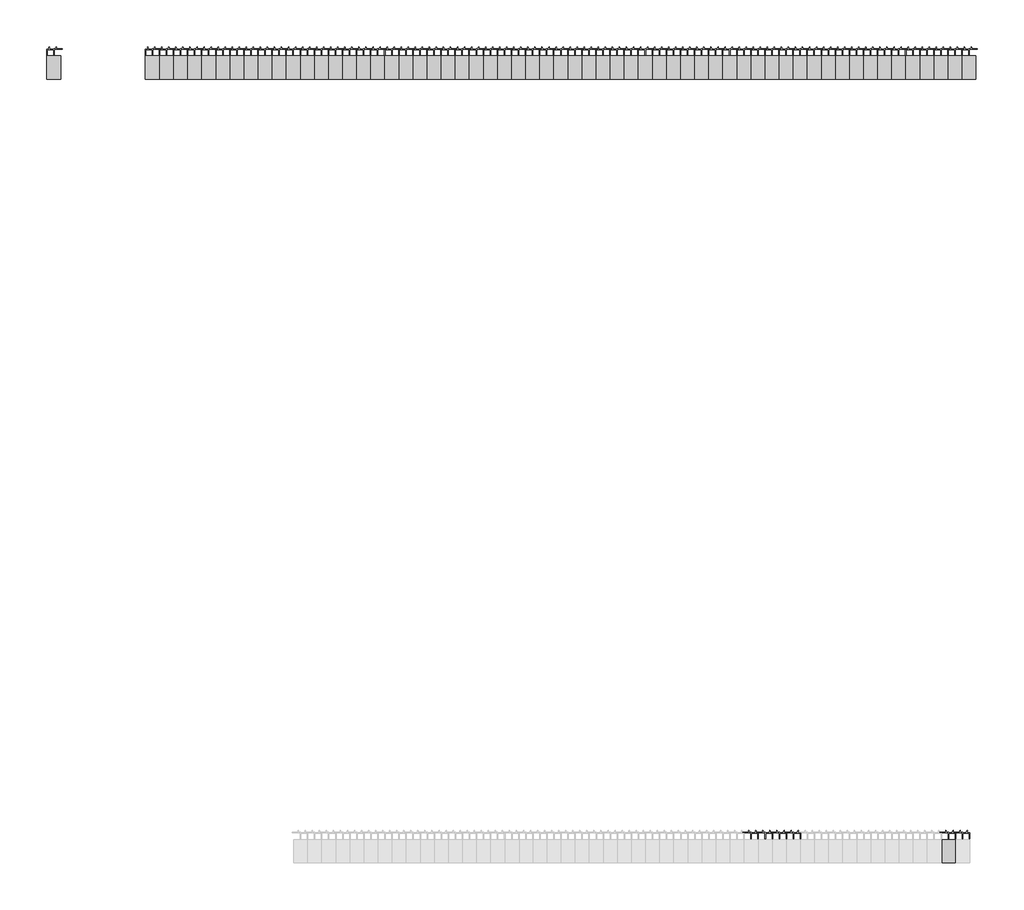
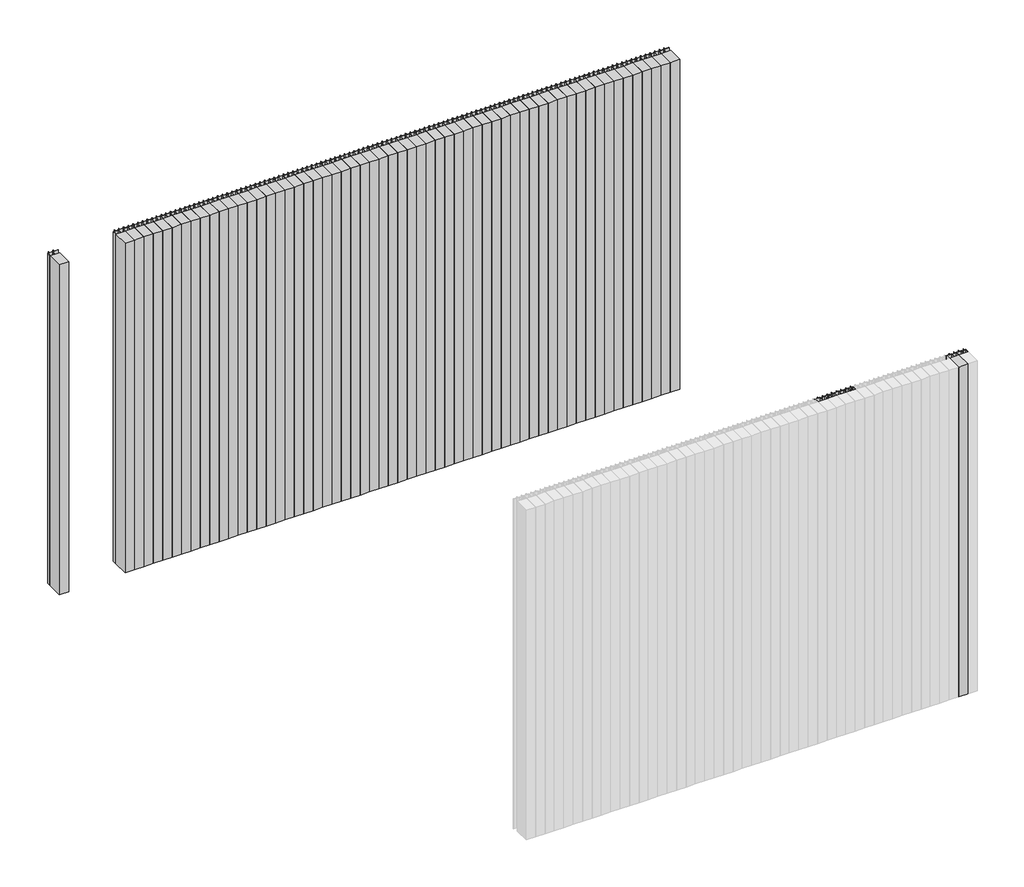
# One storey, part 3 of 3: 66 members, 61 plates.
"""IFC4 building model written with IfcOpenShell, lengths in millimetres."""

from ifc_helpers import new_model, si_unit, origin, place, context, project, spatial, transform, mapped, element, save
from components import rectangular_mullion_2d27342c, rectangular_mullion_54812856, rectangular_mullion_0795b381, rectangular_mullion_45ac8ef7, empty_system_panel_empty_ddf532ef, empty_system_panel_empty_d01f5993, empty_system_panel_empty_b4a5b46b

model = new_model("IFC4")

# Units and contexts
model_context = context("Model", 3, world=origin())
ifc_project = project(units=[si_unit("LENGTHUNIT", "METRE", prefix="MILLI")], contexts=[model_context])

# Site, building, storey
site = spatial("IfcSite", under=ifc_project)
building = spatial("IfcBuilding", under=site)
storey = spatial("IfcBuildingStorey", under=building, Name="REN - Top", Elevation=4000.0)

# Members
placement = place(None, origin())
rectangular_mullion_shape = rectangular_mullion_2d27342c(model_context)
element("IfcMember", 1, ObjectType="Rectangular Mullion : Renson_Linarte_LA-E25-01 Zone B", at=placement, inside=storey, context=model_context, shape_type="MappedRepresentation", body=[
    mapped(rectangular_mullion_shape, transform((402395.5749429, -18477.8406315, 0.0), x_axis=(1.0, 0.0, 0.0), y_axis=(0.0, -1.0, 0.0), z_axis=(0.0, 0.0, -1.0))),
])
element("IfcMember", 2, ObjectType="Rectangular Mullion : Renson_Linarte_LA-E25-01 Zone B", at=placement, inside=storey, context=model_context, shape_type="MappedRepresentation", body=[
    mapped(rectangular_mullion_shape, transform((402455.5749429, -18477.8406315, 0.0), x_axis=(1.0, 0.0, 0.0), y_axis=(0.0, -1.0, 0.0), z_axis=(0.0, 0.0, -1.0))),
])
element("IfcMember", 3, ObjectType="Rectangular Mullion : Renson_Linarte_LA-E25-01 Zone B", at=placement, inside=storey, context=model_context, shape_type="MappedRepresentation", body=[
    mapped(rectangular_mullion_shape, transform((402515.5749429, -18477.8406315, 0.0), x_axis=(1.0, 0.0, 0.0), y_axis=(0.0, -1.0, 0.0), z_axis=(0.0, 0.0, -1.0))),
])
element("IfcMember", 4, ObjectType="Rectangular Mullion : Renson_Linarte_LA-E25-01 Zone B", at=placement, inside=storey, context=model_context, shape_type="MappedRepresentation", body=[
    mapped(rectangular_mullion_shape, transform((402575.5749429, -18477.8406315, 0.0), x_axis=(1.0, 0.0, 0.0), y_axis=(0.0, -1.0, 0.0), z_axis=(0.0, 0.0, -1.0))),
])
element("IfcMember", 5, ObjectType="Rectangular Mullion : Renson_Linarte_LA-E25-01 Zone B", at=placement, inside=storey, context=model_context, shape_type="MappedRepresentation", body=[
    mapped(rectangular_mullion_shape, transform((402635.5749429, -18477.8406315, 0.0), x_axis=(1.0, 0.0, 0.0), y_axis=(0.0, -1.0, 0.0), z_axis=(0.0, 0.0, -1.0))),
])
element("IfcMember", 6, ObjectType="Rectangular Mullion : Renson_Linarte_LA-E25-01 Zone B", at=placement, inside=storey, context=model_context, shape_type="MappedRepresentation", body=[
    mapped(rectangular_mullion_shape, transform((402695.5749429, -18477.8406315, 0.0), x_axis=(1.0, 0.0, 0.0), y_axis=(0.0, -1.0, 0.0), z_axis=(0.0, 0.0, -1.0))),
])
element("IfcMember", 7, ObjectType="Rectangular Mullion : Renson_Linarte_LA-E25-01 Zone B", at=placement, inside=storey, context=model_context, shape_type="MappedRepresentation", body=[
    mapped(rectangular_mullion_shape, transform((402755.5749429, -18477.8406315, 0.0), x_axis=(1.0, 0.0, 0.0), y_axis=(0.0, -1.0, 0.0), z_axis=(0.0, 0.0, -1.0))),
])
element("IfcMember", 8, ObjectType="Rectangular Mullion : Renson_Linarte_LA-E25-01 Zone B", at=placement, inside=storey, context=model_context, shape_type="MappedRepresentation", body=[
    mapped(rectangular_mullion_shape, transform((402815.5749429, -18477.8406315, 0.0), x_axis=(1.0, 0.0, 0.0), y_axis=(0.0, -1.0, 0.0), z_axis=(0.0, 0.0, -1.0))),
])
element("IfcMember", 9, ObjectType="Rectangular Mullion : Renson_Linarte_LA-E25-01 Zone B", at=placement, inside=storey, context=model_context, shape_type="MappedRepresentation", body=[
    mapped(rectangular_mullion_shape, transform((402875.5749429, -18477.8406315, 0.0), x_axis=(1.0, 0.0, 0.0), y_axis=(0.0, -1.0, 0.0), z_axis=(0.0, 0.0, -1.0))),
])
element("IfcMember", 10, ObjectType="Rectangular Mullion : Renson_Linarte_LA-E25-01 Zone B", at=placement, inside=storey, context=model_context, shape_type="MappedRepresentation", body=[
    mapped(rectangular_mullion_shape, transform((402935.5749429, -18477.8406315, 0.0), x_axis=(1.0, 0.0, 0.0), y_axis=(0.0, -1.0, 0.0), z_axis=(0.0, 0.0, -1.0))),
])
element("IfcMember", 11, ObjectType="Rectangular Mullion : Renson_Linarte_LA-E25-01 Zone B", at=placement, inside=storey, context=model_context, shape_type="MappedRepresentation", body=[
    mapped(rectangular_mullion_shape, transform((402995.5749429, -18477.8406315, 0.0), x_axis=(1.0, 0.0, 0.0), y_axis=(0.0, -1.0, 0.0), z_axis=(0.0, 0.0, -1.0))),
])
element("IfcMember", 12, ObjectType="Rectangular Mullion : Renson_Linarte_LA-E25-01 Zone B", at=placement, inside=storey, context=model_context, shape_type="MappedRepresentation", body=[
    mapped(rectangular_mullion_shape, transform((403055.5749429, -18477.8406315, 0.0), x_axis=(1.0, 0.0, 0.0), y_axis=(0.0, -1.0, 0.0), z_axis=(0.0, 0.0, -1.0))),
])
element("IfcMember", 13, ObjectType="Rectangular Mullion : Renson_Linarte_LA-E25-01 Zone B", at=placement, inside=storey, context=model_context, shape_type="MappedRepresentation", body=[
    mapped(rectangular_mullion_shape, transform((403115.5749429, -18477.8406315, 0.0), x_axis=(1.0, 0.0, 0.0), y_axis=(0.0, -1.0, 0.0), z_axis=(0.0, 0.0, -1.0))),
])
element("IfcMember", 14, ObjectType="Rectangular Mullion : Renson_Linarte_LA-E25-01 Zone B", at=placement, inside=storey, context=model_context, shape_type="MappedRepresentation", body=[
    mapped(rectangular_mullion_shape, transform((403175.5749429, -18477.8406315, 0.0), x_axis=(1.0, 0.0, 0.0), y_axis=(0.0, -1.0, 0.0), z_axis=(0.0, 0.0, -1.0))),
])
element("IfcMember", 15, ObjectType="Rectangular Mullion : Renson_Linarte_LA-E25-01 Zone B", at=placement, inside=storey, context=model_context, shape_type="MappedRepresentation", body=[
    mapped(rectangular_mullion_shape, transform((403235.5749429, -18477.8406315, 0.0), x_axis=(1.0, 0.0, 0.0), y_axis=(0.0, -1.0, 0.0), z_axis=(0.0, 0.0, -1.0))),
])
element("IfcMember", 16, ObjectType="Rectangular Mullion : Renson_Linarte_LA-E25-01 Zone B", at=placement, inside=storey, context=model_context, shape_type="MappedRepresentation", body=[
    mapped(rectangular_mullion_shape, transform((403295.5749429, -18477.8406315, 0.0), x_axis=(1.0, 0.0, 0.0), y_axis=(0.0, -1.0, 0.0), z_axis=(0.0, 0.0, -1.0))),
])
element("IfcMember", 17, ObjectType="Rectangular Mullion : Renson_Linarte_LA-E25-01 Zone B", at=placement, inside=storey, context=model_context, shape_type="MappedRepresentation", body=[
    mapped(rectangular_mullion_shape, transform((403355.5749429, -18477.8406315, 0.0), x_axis=(1.0, 0.0, 0.0), y_axis=(0.0, -1.0, 0.0), z_axis=(0.0, 0.0, -1.0))),
])
element("IfcMember", 18, ObjectType="Rectangular Mullion : Renson_Linarte_LA-E25-01 Zone B", at=placement, inside=storey, context=model_context, shape_type="MappedRepresentation", body=[
    mapped(rectangular_mullion_shape, transform((403415.5749429, -18477.8406315, 0.0), x_axis=(1.0, 0.0, 0.0), y_axis=(0.0, -1.0, 0.0), z_axis=(0.0, 0.0, -1.0))),
])
element("IfcMember", 19, ObjectType="Rectangular Mullion : Renson_Linarte_LA-E25-01 Zone B", at=placement, inside=storey, context=model_context, shape_type="MappedRepresentation", body=[
    mapped(rectangular_mullion_shape, transform((403475.5749429, -18477.8406315, 0.0), x_axis=(1.0, 0.0, 0.0), y_axis=(0.0, -1.0, 0.0), z_axis=(0.0, 0.0, -1.0))),
])
element("IfcMember", 20, ObjectType="Rectangular Mullion : Renson_Linarte_LA-E25-01 Zone B", at=placement, inside=storey, context=model_context, shape_type="MappedRepresentation", body=[
    mapped(rectangular_mullion_shape, transform((403535.5749429, -18477.8406315, 0.0), x_axis=(1.0, 0.0, 0.0), y_axis=(0.0, -1.0, 0.0), z_axis=(0.0, 0.0, -1.0))),
])
element("IfcMember", 21, ObjectType="Rectangular Mullion : Renson_Linarte_LA-E25-01 Zone B", at=placement, inside=storey, context=model_context, shape_type="MappedRepresentation", body=[
    mapped(rectangular_mullion_shape, transform((403595.5749429, -18477.8406315, 0.0), x_axis=(1.0, 0.0, 0.0), y_axis=(0.0, -1.0, 0.0), z_axis=(0.0, 0.0, -1.0))),
])
element("IfcMember", 22, ObjectType="Rectangular Mullion : Renson_Linarte_LA-E25-01 Zone B", at=placement, inside=storey, context=model_context, shape_type="MappedRepresentation", body=[
    mapped(rectangular_mullion_shape, transform((403655.5749429, -18477.8406315, 0.0), x_axis=(1.0, 0.0, 0.0), y_axis=(0.0, -1.0, 0.0), z_axis=(0.0, 0.0, -1.0))),
])
element("IfcMember", 23, ObjectType="Rectangular Mullion : Renson_Linarte_LA-E25-01 Zone B", at=placement, inside=storey, context=model_context, shape_type="MappedRepresentation", body=[
    mapped(rectangular_mullion_shape, transform((403715.5749429, -18477.8406315, 0.0), x_axis=(1.0, 0.0, 0.0), y_axis=(0.0, -1.0, 0.0), z_axis=(0.0, 0.0, -1.0))),
])
element("IfcMember", 24, ObjectType="Rectangular Mullion : Renson_Linarte_LA-E25-01 Zone B", at=placement, inside=storey, context=model_context, shape_type="MappedRepresentation", body=[
    mapped(rectangular_mullion_shape, transform((403775.5749429, -18477.8406315, 0.0), x_axis=(1.0, 0.0, 0.0), y_axis=(0.0, -1.0, 0.0), z_axis=(0.0, 0.0, -1.0))),
])
element("IfcMember", 25, ObjectType="Rectangular Mullion : Renson_Linarte_LA-E25-01 Zone B", at=placement, inside=storey, context=model_context, shape_type="MappedRepresentation", body=[
    mapped(rectangular_mullion_shape, transform((403835.5749429, -18477.8406315, 0.0), x_axis=(1.0, 0.0, 0.0), y_axis=(0.0, -1.0, 0.0), z_axis=(0.0, 0.0, -1.0))),
])
element("IfcMember", 26, ObjectType="Rectangular Mullion : Renson_Linarte_LA-E25-01 Zone B", at=placement, inside=storey, context=model_context, shape_type="MappedRepresentation", body=[
    mapped(rectangular_mullion_shape, transform((403895.5749429, -18477.8406315, 0.0), x_axis=(1.0, 0.0, 0.0), y_axis=(0.0, -1.0, 0.0), z_axis=(0.0, 0.0, -1.0))),
])
element("IfcMember", 27, ObjectType="Rectangular Mullion : Renson_Linarte_LA-E25-01 Zone B", at=placement, inside=storey, context=model_context, shape_type="MappedRepresentation", body=[
    mapped(rectangular_mullion_shape, transform((403955.5749429, -18477.8406315, 0.0), x_axis=(1.0, 0.0, 0.0), y_axis=(0.0, -1.0, 0.0), z_axis=(0.0, 0.0, -1.0))),
])
element("IfcMember", 28, ObjectType="Rectangular Mullion : Renson_Linarte_LA-E25-01 Zone B", at=placement, inside=storey, context=model_context, shape_type="MappedRepresentation", body=[
    mapped(rectangular_mullion_shape, transform((404015.5749429, -18477.8406315, 0.0), x_axis=(1.0, 0.0, 0.0), y_axis=(0.0, -1.0, 0.0), z_axis=(0.0, 0.0, -1.0))),
])
element("IfcMember", 29, ObjectType="Rectangular Mullion : Renson_Linarte_LA-E25-01 Zone B", at=placement, inside=storey, context=model_context, shape_type="MappedRepresentation", body=[
    mapped(rectangular_mullion_shape, transform((404075.5749429, -18477.8406315, 0.0), x_axis=(1.0, 0.0, 0.0), y_axis=(0.0, -1.0, 0.0), z_axis=(0.0, 0.0, -1.0))),
])
element("IfcMember", 30, ObjectType="Rectangular Mullion : Renson_Linarte_LA-E25-01 Zone B", at=placement, inside=storey, context=model_context, shape_type="MappedRepresentation", body=[
    mapped(rectangular_mullion_shape, transform((404135.5749429, -18477.8406315, 0.0), x_axis=(1.0, 0.0, 0.0), y_axis=(0.0, -1.0, 0.0), z_axis=(0.0, 0.0, -1.0))),
])
element("IfcMember", 31, ObjectType="Rectangular Mullion : Renson_Linarte_LA-E25-01 Zone B", at=placement, inside=storey, context=model_context, shape_type="MappedRepresentation", body=[
    mapped(rectangular_mullion_shape, transform((404195.5749429, -18477.8406315, 0.0), x_axis=(1.0, 0.0, 0.0), y_axis=(0.0, -1.0, 0.0), z_axis=(0.0, 0.0, -1.0))),
])
element("IfcMember", 32, ObjectType="Rectangular Mullion : Renson_Linarte_LA-E25-01 Zone B", at=placement, inside=storey, context=model_context, shape_type="MappedRepresentation", body=[
    mapped(rectangular_mullion_shape, transform((404255.5749429, -18477.8406315, 0.0), x_axis=(1.0, 0.0, 0.0), y_axis=(0.0, -1.0, 0.0), z_axis=(0.0, 0.0, -1.0))),
])
element("IfcMember", 33, ObjectType="Rectangular Mullion : Renson_Linarte_LA-E25-01 Zone B", at=placement, inside=storey, context=model_context, shape_type="MappedRepresentation", body=[
    mapped(rectangular_mullion_shape, transform((404315.5749429, -18477.8406315, 0.0), x_axis=(1.0, 0.0, 0.0), y_axis=(0.0, -1.0, 0.0), z_axis=(0.0, 0.0, -1.0))),
])
element("IfcMember", 34, ObjectType="Rectangular Mullion : Renson_Linarte_LA-E25-01 Zone B", at=placement, inside=storey, context=model_context, shape_type="MappedRepresentation", body=[
    mapped(rectangular_mullion_shape, transform((404375.5749429, -18477.8406315, 0.0), x_axis=(1.0, 0.0, 0.0), y_axis=(0.0, -1.0, 0.0), z_axis=(0.0, 0.0, -1.0))),
])
element("IfcMember", 35, ObjectType="Rectangular Mullion : Renson_Linarte_LA-E25-01 Zone B", at=placement, inside=storey, context=model_context, shape_type="MappedRepresentation", body=[
    mapped(rectangular_mullion_shape, transform((404435.5749429, -18477.8406315, 0.0), x_axis=(1.0, 0.0, 0.0), y_axis=(0.0, -1.0, 0.0), z_axis=(0.0, 0.0, -1.0))),
])
element("IfcMember", 36, ObjectType="Rectangular Mullion : Renson_Linarte_LA-E25-01 Zone B", at=placement, inside=storey, context=model_context, shape_type="MappedRepresentation", body=[
    mapped(rectangular_mullion_shape, transform((404495.5749429, -18477.8406315, 0.0), x_axis=(1.0, 0.0, 0.0), y_axis=(0.0, -1.0, 0.0), z_axis=(0.0, 0.0, -1.0))),
])
element("IfcMember", 37, ObjectType="Rectangular Mullion : Renson_Linarte_LA-E25-01 Zone B", at=placement, inside=storey, context=model_context, shape_type="MappedRepresentation", body=[
    mapped(rectangular_mullion_shape, transform((404555.5749429, -18477.8406315, 0.0), x_axis=(1.0, 0.0, 0.0), y_axis=(0.0, -1.0, 0.0), z_axis=(0.0, 0.0, -1.0))),
])
element("IfcMember", 38, ObjectType="Rectangular Mullion : Renson_Linarte_LA-E25-01 Zone B", at=placement, inside=storey, context=model_context, shape_type="MappedRepresentation", body=[
    mapped(rectangular_mullion_shape, transform((404615.5749429, -18477.8406315, 0.0), x_axis=(1.0, 0.0, 0.0), y_axis=(0.0, -1.0, 0.0), z_axis=(0.0, 0.0, -1.0))),
])
element("IfcMember", 39, ObjectType="Rectangular Mullion : Renson_Linarte_LA-E25-01 Zone B", at=placement, inside=storey, context=model_context, shape_type="MappedRepresentation", body=[
    mapped(rectangular_mullion_shape, transform((404675.5749429, -18477.8406315, 0.0), x_axis=(1.0, 0.0, 0.0), y_axis=(0.0, -1.0, 0.0), z_axis=(0.0, 0.0, -1.0))),
])
element("IfcMember", 40, ObjectType="Rectangular Mullion : Renson_Linarte_LA-E25-01 Zone B", at=placement, inside=storey, context=model_context, shape_type="MappedRepresentation", body=[
    mapped(rectangular_mullion_shape, transform((404735.5749429, -18477.8406315, 0.0), x_axis=(1.0, 0.0, 0.0), y_axis=(0.0, -1.0, 0.0), z_axis=(0.0, 0.0, -1.0))),
])
element("IfcMember", 41, ObjectType="Rectangular Mullion : Renson_Linarte_LA-E25-01 Zone B", at=placement, inside=storey, context=model_context, shape_type="MappedRepresentation", body=[
    mapped(rectangular_mullion_shape, transform((404795.5749429, -18477.8406315, 0.0), x_axis=(1.0, 0.0, 0.0), y_axis=(0.0, -1.0, 0.0), z_axis=(0.0, 0.0, -1.0))),
])
element("IfcMember", 42, ObjectType="Rectangular Mullion : Renson_Linarte_LA-E25-01 Zone B", at=placement, inside=storey, context=model_context, shape_type="MappedRepresentation", body=[
    mapped(rectangular_mullion_shape, transform((404855.5749429, -18477.8406315, 0.0), x_axis=(1.0, 0.0, 0.0), y_axis=(0.0, -1.0, 0.0), z_axis=(0.0, 0.0, -1.0))),
])
element("IfcMember", 43, ObjectType="Rectangular Mullion : Renson_Linarte_LA-E25-01 Zone B", at=placement, inside=storey, context=model_context, shape_type="MappedRepresentation", body=[
    mapped(rectangular_mullion_shape, transform((404915.5749429, -18477.8406315, 0.0), x_axis=(1.0, 0.0, 0.0), y_axis=(0.0, -1.0, 0.0), z_axis=(0.0, 0.0, -1.0))),
])
element("IfcMember", 44, ObjectType="Rectangular Mullion : Renson_Linarte_LA-E25-01 Zone B", at=placement, inside=storey, context=model_context, shape_type="MappedRepresentation", body=[
    mapped(rectangular_mullion_shape, transform((404975.5749429, -18477.8406315, 0.0), x_axis=(1.0, 0.0, 0.0), y_axis=(0.0, -1.0, 0.0), z_axis=(0.0, 0.0, -1.0))),
])
element("IfcMember", 45, ObjectType="Rectangular Mullion : Renson_Linarte_LA-E25-01 Zone B", at=placement, inside=storey, context=model_context, shape_type="MappedRepresentation", body=[
    mapped(rectangular_mullion_shape, transform((405035.5749429, -18477.8406315, 0.0), x_axis=(1.0, 0.0, 0.0), y_axis=(0.0, -1.0, 0.0), z_axis=(0.0, 0.0, -1.0))),
])
element("IfcMember", 46, ObjectType="Rectangular Mullion : Renson_Linarte_LA-E25-01 Zone B", at=placement, inside=storey, context=model_context, shape_type="MappedRepresentation", body=[
    mapped(rectangular_mullion_shape, transform((405095.5749429, -18477.8406315, 0.0), x_axis=(1.0, 0.0, 0.0), y_axis=(0.0, -1.0, 0.0), z_axis=(0.0, 0.0, -1.0))),
])
element("IfcMember", 47, ObjectType="Rectangular Mullion : Renson_Linarte_LA-E25-01 Zone B", at=placement, inside=storey, context=model_context, shape_type="MappedRepresentation", body=[
    mapped(rectangular_mullion_shape, transform((405155.5749429, -18477.8406315, 0.0), x_axis=(1.0, 0.0, 0.0), y_axis=(0.0, -1.0, 0.0), z_axis=(0.0, 0.0, -1.0))),
])
element("IfcMember", 48, ObjectType="Rectangular Mullion : Renson_Linarte_LA-E25-01 Zone B", at=placement, inside=storey, context=model_context, shape_type="MappedRepresentation", body=[
    mapped(rectangular_mullion_shape, transform((405215.5749429, -18477.8406315, 0.0), x_axis=(1.0, 0.0, 0.0), y_axis=(0.0, -1.0, 0.0), z_axis=(0.0, 0.0, -1.0))),
])
element("IfcMember", 49, ObjectType="Rectangular Mullion : Renson_Linarte_LA-E25-01 Zone B", at=placement, inside=storey, context=model_context, shape_type="MappedRepresentation", body=[
    mapped(rectangular_mullion_shape, transform((405275.5749429, -18477.8406315, 0.0), x_axis=(1.0, 0.0, 0.0), y_axis=(0.0, -1.0, 0.0), z_axis=(0.0, 0.0, -1.0))),
])
element("IfcMember", 50, ObjectType="Rectangular Mullion : Renson_Linarte_LA-E25-01 Zone B", at=placement, inside=storey, context=model_context, shape_type="MappedRepresentation", body=[
    mapped(rectangular_mullion_shape, transform((405335.5749429, -18477.8406315, 0.0), x_axis=(1.0, 0.0, 0.0), y_axis=(0.0, -1.0, 0.0), z_axis=(0.0, 0.0, -1.0))),
])
element("IfcMember", 51, ObjectType="Rectangular Mullion : Renson_Linarte_LA-E25-01 Zone B", at=placement, inside=storey, context=model_context, shape_type="MappedRepresentation", body=[
    mapped(rectangular_mullion_shape, transform((405395.5749429, -18477.8406315, 0.0), x_axis=(1.0, 0.0, 0.0), y_axis=(0.0, -1.0, 0.0), z_axis=(0.0, 0.0, -1.0))),
])
element("IfcMember", 52, ObjectType="Rectangular Mullion : Renson_Linarte_LA-E25-01 Zone B", at=placement, inside=storey, context=model_context, shape_type="MappedRepresentation", body=[
    mapped(rectangular_mullion_shape, transform((405455.5749429, -18477.8406315, 0.0), x_axis=(1.0, 0.0, 0.0), y_axis=(0.0, -1.0, 0.0), z_axis=(0.0, 0.0, -1.0))),
])
element("IfcMember", 53, ObjectType="Rectangular Mullion : Renson_Linarte_LA-E25-01 Zone B", at=placement, inside=storey, context=model_context, shape_type="MappedRepresentation", body=[
    mapped(rectangular_mullion_shape, transform((405515.5749429, -18477.8406315, 0.0), x_axis=(1.0, 0.0, 0.0), y_axis=(0.0, -1.0, 0.0), z_axis=(0.0, 0.0, -1.0))),
])
element("IfcMember", 54, ObjectType="Rectangular Mullion : Renson_Linarte_LA-E25-01 Zone B", at=placement, inside=storey, context=model_context, shape_type="MappedRepresentation", body=[
    mapped(rectangular_mullion_shape, transform((405575.5749429, -18477.8406315, 0.0), x_axis=(1.0, 0.0, 0.0), y_axis=(0.0, -1.0, 0.0), z_axis=(0.0, 0.0, -1.0))),
])
element("IfcMember", 55, ObjectType="Rectangular Mullion : Renson_Linarte_LA-E25-01 Zone B", at=placement, inside=storey, context=model_context, shape_type="MappedRepresentation", body=[
    mapped(rectangular_mullion_shape, transform((405635.5749429, -18477.8406315, 0.0), x_axis=(1.0, 0.0, 0.0), y_axis=(0.0, -1.0, 0.0), z_axis=(0.0, 0.0, -1.0))),
])
element("IfcMember", 56, ObjectType="Rectangular Mullion : Renson_Linarte_LA-E25-01 Zone B", at=placement, inside=storey, context=model_context, shape_type="MappedRepresentation", body=[
    mapped(rectangular_mullion_shape, transform((405695.5749429, -18477.8406315, 0.0), x_axis=(1.0, 0.0, 0.0), y_axis=(0.0, -1.0, 0.0), z_axis=(0.0, 0.0, -1.0))),
])
element("IfcMember", 57, ObjectType="Rectangular Mullion : Renson_Linarte_LA-E25-01 Zone B", at=placement, inside=storey, context=model_context, shape_type="MappedRepresentation", body=[
    mapped(rectangular_mullion_shape, transform((405755.5749429, -18477.8406315, 0.0), x_axis=(1.0, 0.0, 0.0), y_axis=(0.0, -1.0, 0.0), z_axis=(0.0, 0.0, -1.0))),
])
element("IfcMember", 58, ObjectType="Rectangular Mullion : Renson_Linarte_LA-E25-01 Zone B", at=placement, inside=storey, context=model_context, shape_type="MappedRepresentation", body=[
    mapped(rectangular_mullion_shape, transform((405815.5749429, -18477.8406315, 0.0), x_axis=(1.0, 0.0, 0.0), y_axis=(0.0, -1.0, 0.0), z_axis=(0.0, 0.0, -1.0))),
])
element("IfcMember", 59, ObjectType="Rectangular Mullion : Renson_Linarte_LA-E25-01 Zone B", at=placement, inside=storey, context=model_context, shape_type="MappedRepresentation", body=[
    mapped(rectangular_mullion_shape, transform((405875.5749429, -18477.8406315, 0.0), x_axis=(1.0, 0.0, 0.0), y_axis=(0.0, -1.0, 0.0), z_axis=(0.0, 0.0, -1.0))),
])
rectangular_mullion_2_shape = rectangular_mullion_54812856(model_context)
element("IfcMember", 60, ObjectType="Rectangular Mullion : Renson_Linarte_LA-E25-01 Zone B", at=placement, inside=storey, context=model_context, shape_type="MappedRepresentation", body=[
    mapped(rectangular_mullion_2_shape, transform((401975.5749426, -18477.8406315, 2225.0), x_axis=(-1.0, 0.0, 0.0), y_axis=(0.0, -1.0, 0.0), z_axis=(0.0, 0.0, 1.0))),
])
rectangular_mullion_3_shape = rectangular_mullion_0795b381(model_context)
element("IfcMember", 61, ObjectType="Rectangular Mullion : Renson_Linarte_LA-E25-01 Zone B", at=placement, inside=storey, context=model_context, shape_type="MappedRepresentation", body=[
    mapped(rectangular_mullion_3_shape, transform((405189.0900204, -21816.7045876, 0.0), x_axis=(-1.0, 0.0, 0.0), y_axis=(0.0, 1.0, 0.0), z_axis=(0.0, 0.0, -1.0))),
])
element("IfcMember", 62, ObjectType="Rectangular Mullion : Renson_Linarte_LA-E25-01 Zone B", at=placement, inside=storey, context=model_context, shape_type="MappedRepresentation", body=[
    mapped(rectangular_mullion_3_shape, transform((405129.0900204, -21816.7045876, 0.0), x_axis=(-1.0, 0.0, 0.0), y_axis=(0.0, 1.0, 0.0), z_axis=(0.0, 0.0, -1.0))),
])
element("IfcMember", 63, ObjectType="Rectangular Mullion : Renson_Linarte_LA-E25-01 Zone B", at=placement, inside=storey, context=model_context, shape_type="MappedRepresentation", body=[
    mapped(rectangular_mullion_3_shape, transform((405069.0900204, -21816.7045876, 0.0), x_axis=(-1.0, 0.0, 0.0), y_axis=(0.0, 1.0, 0.0), z_axis=(0.0, 0.0, -1.0))),
])
element("IfcMember", 64, ObjectType="Rectangular Mullion : Renson_Linarte_LA-E25-01 Zone B", at=placement, inside=storey, context=model_context, shape_type="MappedRepresentation", body=[
    mapped(rectangular_mullion_3_shape, transform((405009.0900204, -21816.7045876, 0.0), x_axis=(-1.0, 0.0, 0.0), y_axis=(0.0, 1.0, 0.0), z_axis=(0.0, 0.0, -1.0))),
])
element("IfcMember", 65, ObjectType="Rectangular Mullion : Renson_Linarte_LA-E25-01 Zone B", at=placement, inside=storey, context=model_context, shape_type="MappedRepresentation", body=[
    mapped(rectangular_mullion_3_shape, transform((405849.0900204, -21816.7045876, 0.0), x_axis=(-1.0, 0.0, 0.0), y_axis=(0.0, 1.0, 0.0), z_axis=(0.0, 0.0, -1.0))),
])
rectangular_mullion_4_shape = rectangular_mullion_45ac8ef7(model_context)
element("IfcMember", 66, ObjectType="Rectangular Mullion : Renson_Linarte_LA-E25-01 Zone B", at=placement, inside=storey, context=model_context, shape_type="MappedRepresentation", body=[
    mapped(rectangular_mullion_4_shape, transform((405909.0900207, -21816.7045876, 2225.0), x_axis=(1.0, 0.0, 0.0), y_axis=(0.0, 1.0, 0.0), z_axis=(0.0, 0.0, 1.0))),
])

# Plates
empty_system_panel_empty_shape = empty_system_panel_empty_ddf532ef(model_context)
element("IfcPlate", 67, ObjectType="Empty System Panel : Empty", at=placement, inside=storey, context=model_context, shape_type="MappedRepresentation", body=[
    mapped(empty_system_panel_empty_shape, transform((402425.5749429, -18477.8406315, 0.0), x_axis=(1.0, 0.0, 0.0), y_axis=(0.0, 1.0, 0.0), z_axis=(0.0, 0.0, 1.0))),
])
element("IfcPlate", 68, ObjectType="Empty System Panel : Empty", at=placement, inside=storey, context=model_context, shape_type="MappedRepresentation", body=[
    mapped(empty_system_panel_empty_shape, transform((402485.5749429, -18477.8406315, 0.0), x_axis=(1.0, 0.0, 0.0), y_axis=(0.0, 1.0, 0.0), z_axis=(0.0, 0.0, 1.0))),
])
element("IfcPlate", 69, ObjectType="Empty System Panel : Empty", at=placement, inside=storey, context=model_context, shape_type="MappedRepresentation", body=[
    mapped(empty_system_panel_empty_shape, transform((402545.5749429, -18477.8406315, 0.0), x_axis=(1.0, 0.0, 0.0), y_axis=(0.0, 1.0, 0.0), z_axis=(0.0, 0.0, 1.0))),
])
element("IfcPlate", 70, ObjectType="Empty System Panel : Empty", at=placement, inside=storey, context=model_context, shape_type="MappedRepresentation", body=[
    mapped(empty_system_panel_empty_shape, transform((402605.5749429, -18477.8406315, 0.0), x_axis=(1.0, 0.0, 0.0), y_axis=(0.0, 1.0, 0.0), z_axis=(0.0, 0.0, 1.0))),
])
element("IfcPlate", 71, ObjectType="Empty System Panel : Empty", at=placement, inside=storey, context=model_context, shape_type="MappedRepresentation", body=[
    mapped(empty_system_panel_empty_shape, transform((402665.5749429, -18477.8406315, 0.0), x_axis=(1.0, 0.0, 0.0), y_axis=(0.0, 1.0, 0.0), z_axis=(0.0, 0.0, 1.0))),
])
element("IfcPlate", 72, ObjectType="Empty System Panel : Empty", at=placement, inside=storey, context=model_context, shape_type="MappedRepresentation", body=[
    mapped(empty_system_panel_empty_shape, transform((402725.5749429, -18477.8406315, 0.0), x_axis=(1.0, 0.0, 0.0), y_axis=(0.0, 1.0, 0.0), z_axis=(0.0, 0.0, 1.0))),
])
element("IfcPlate", 73, ObjectType="Empty System Panel : Empty", at=placement, inside=storey, context=model_context, shape_type="MappedRepresentation", body=[
    mapped(empty_system_panel_empty_shape, transform((402785.5749429, -18477.8406315, 0.0), x_axis=(1.0, 0.0, 0.0), y_axis=(0.0, 1.0, 0.0), z_axis=(0.0, 0.0, 1.0))),
])
element("IfcPlate", 74, ObjectType="Empty System Panel : Empty", at=placement, inside=storey, context=model_context, shape_type="MappedRepresentation", body=[
    mapped(empty_system_panel_empty_shape, transform((402845.5749429, -18477.8406315, 0.0), x_axis=(1.0, 0.0, 0.0), y_axis=(0.0, 1.0, 0.0), z_axis=(0.0, 0.0, 1.0))),
])
element("IfcPlate", 75, ObjectType="Empty System Panel : Empty", at=placement, inside=storey, context=model_context, shape_type="MappedRepresentation", body=[
    mapped(empty_system_panel_empty_shape, transform((402905.5749429, -18477.8406315, 0.0), x_axis=(1.0, 0.0, 0.0), y_axis=(0.0, 1.0, 0.0), z_axis=(0.0, 0.0, 1.0))),
])
element("IfcPlate", 76, ObjectType="Empty System Panel : Empty", at=placement, inside=storey, context=model_context, shape_type="MappedRepresentation", body=[
    mapped(empty_system_panel_empty_shape, transform((402965.5749429, -18477.8406315, 0.0), x_axis=(1.0, 0.0, 0.0), y_axis=(0.0, 1.0, 0.0), z_axis=(0.0, 0.0, 1.0))),
])
element("IfcPlate", 77, ObjectType="Empty System Panel : Empty", at=placement, inside=storey, context=model_context, shape_type="MappedRepresentation", body=[
    mapped(empty_system_panel_empty_shape, transform((403025.5749429, -18477.8406315, 0.0), x_axis=(1.0, 0.0, 0.0), y_axis=(0.0, 1.0, 0.0), z_axis=(0.0, 0.0, 1.0))),
])
element("IfcPlate", 78, ObjectType="Empty System Panel : Empty", at=placement, inside=storey, context=model_context, shape_type="MappedRepresentation", body=[
    mapped(empty_system_panel_empty_shape, transform((403085.5749429, -18477.8406315, 0.0), x_axis=(1.0, 0.0, 0.0), y_axis=(0.0, 1.0, 0.0), z_axis=(0.0, 0.0, 1.0))),
])
element("IfcPlate", 79, ObjectType="Empty System Panel : Empty", at=placement, inside=storey, context=model_context, shape_type="MappedRepresentation", body=[
    mapped(empty_system_panel_empty_shape, transform((403145.5749429, -18477.8406315, 0.0), x_axis=(1.0, 0.0, 0.0), y_axis=(0.0, 1.0, 0.0), z_axis=(0.0, 0.0, 1.0))),
])
element("IfcPlate", 80, ObjectType="Empty System Panel : Empty", at=placement, inside=storey, context=model_context, shape_type="MappedRepresentation", body=[
    mapped(empty_system_panel_empty_shape, transform((403205.5749429, -18477.8406315, 0.0), x_axis=(1.0, 0.0, 0.0), y_axis=(0.0, 1.0, 0.0), z_axis=(0.0, 0.0, 1.0))),
])
element("IfcPlate", 81, ObjectType="Empty System Panel : Empty", at=placement, inside=storey, context=model_context, shape_type="MappedRepresentation", body=[
    mapped(empty_system_panel_empty_shape, transform((403265.5749429, -18477.8406315, 0.0), x_axis=(1.0, 0.0, 0.0), y_axis=(0.0, 1.0, 0.0), z_axis=(0.0, 0.0, 1.0))),
])
element("IfcPlate", 82, ObjectType="Empty System Panel : Empty", at=placement, inside=storey, context=model_context, shape_type="MappedRepresentation", body=[
    mapped(empty_system_panel_empty_shape, transform((403325.5749429, -18477.8406315, 0.0), x_axis=(1.0, 0.0, 0.0), y_axis=(0.0, 1.0, 0.0), z_axis=(0.0, 0.0, 1.0))),
])
element("IfcPlate", 83, ObjectType="Empty System Panel : Empty", at=placement, inside=storey, context=model_context, shape_type="MappedRepresentation", body=[
    mapped(empty_system_panel_empty_shape, transform((403385.5749429, -18477.8406315, 0.0), x_axis=(1.0, 0.0, 0.0), y_axis=(0.0, 1.0, 0.0), z_axis=(0.0, 0.0, 1.0))),
])
element("IfcPlate", 84, ObjectType="Empty System Panel : Empty", at=placement, inside=storey, context=model_context, shape_type="MappedRepresentation", body=[
    mapped(empty_system_panel_empty_shape, transform((403445.5749429, -18477.8406315, 0.0), x_axis=(1.0, 0.0, 0.0), y_axis=(0.0, 1.0, 0.0), z_axis=(0.0, 0.0, 1.0))),
])
element("IfcPlate", 85, ObjectType="Empty System Panel : Empty", at=placement, inside=storey, context=model_context, shape_type="MappedRepresentation", body=[
    mapped(empty_system_panel_empty_shape, transform((403505.5749429, -18477.8406315, 0.0), x_axis=(1.0, 0.0, 0.0), y_axis=(0.0, 1.0, 0.0), z_axis=(0.0, 0.0, 1.0))),
])
element("IfcPlate", 86, ObjectType="Empty System Panel : Empty", at=placement, inside=storey, context=model_context, shape_type="MappedRepresentation", body=[
    mapped(empty_system_panel_empty_shape, transform((403565.5749429, -18477.8406315, 0.0), x_axis=(1.0, 0.0, 0.0), y_axis=(0.0, 1.0, 0.0), z_axis=(0.0, 0.0, 1.0))),
])
element("IfcPlate", 87, ObjectType="Empty System Panel : Empty", at=placement, inside=storey, context=model_context, shape_type="MappedRepresentation", body=[
    mapped(empty_system_panel_empty_shape, transform((403625.5749429, -18477.8406315, 0.0), x_axis=(1.0, 0.0, 0.0), y_axis=(0.0, 1.0, 0.0), z_axis=(0.0, 0.0, 1.0))),
])
element("IfcPlate", 88, ObjectType="Empty System Panel : Empty", at=placement, inside=storey, context=model_context, shape_type="MappedRepresentation", body=[
    mapped(empty_system_panel_empty_shape, transform((403685.5749429, -18477.8406315, 0.0), x_axis=(1.0, 0.0, 0.0), y_axis=(0.0, 1.0, 0.0), z_axis=(0.0, 0.0, 1.0))),
])
element("IfcPlate", 89, ObjectType="Empty System Panel : Empty", at=placement, inside=storey, context=model_context, shape_type="MappedRepresentation", body=[
    mapped(empty_system_panel_empty_shape, transform((403745.5749429, -18477.8406315, 0.0), x_axis=(1.0, 0.0, 0.0), y_axis=(0.0, 1.0, 0.0), z_axis=(0.0, 0.0, 1.0))),
])
element("IfcPlate", 90, ObjectType="Empty System Panel : Empty", at=placement, inside=storey, context=model_context, shape_type="MappedRepresentation", body=[
    mapped(empty_system_panel_empty_shape, transform((403805.5749429, -18477.8406315, 0.0), x_axis=(1.0, 0.0, 0.0), y_axis=(0.0, 1.0, 0.0), z_axis=(0.0, 0.0, 1.0))),
])
element("IfcPlate", 91, ObjectType="Empty System Panel : Empty", at=placement, inside=storey, context=model_context, shape_type="MappedRepresentation", body=[
    mapped(empty_system_panel_empty_shape, transform((403865.5749429, -18477.8406315, 0.0), x_axis=(1.0, 0.0, 0.0), y_axis=(0.0, 1.0, 0.0), z_axis=(0.0, 0.0, 1.0))),
])
element("IfcPlate", 92, ObjectType="Empty System Panel : Empty", at=placement, inside=storey, context=model_context, shape_type="MappedRepresentation", body=[
    mapped(empty_system_panel_empty_shape, transform((403925.5749429, -18477.8406315, 0.0), x_axis=(1.0, 0.0, 0.0), y_axis=(0.0, 1.0, 0.0), z_axis=(0.0, 0.0, 1.0))),
])
element("IfcPlate", 93, ObjectType="Empty System Panel : Empty", at=placement, inside=storey, context=model_context, shape_type="MappedRepresentation", body=[
    mapped(empty_system_panel_empty_shape, transform((403985.5749429, -18477.8406315, 0.0), x_axis=(1.0, 0.0, 0.0), y_axis=(0.0, 1.0, 0.0), z_axis=(0.0, 0.0, 1.0))),
])
element("IfcPlate", 94, ObjectType="Empty System Panel : Empty", at=placement, inside=storey, context=model_context, shape_type="MappedRepresentation", body=[
    mapped(empty_system_panel_empty_shape, transform((404045.5749429, -18477.8406315, 0.0), x_axis=(1.0, 0.0, 0.0), y_axis=(0.0, 1.0, 0.0), z_axis=(0.0, 0.0, 1.0))),
])
element("IfcPlate", 95, ObjectType="Empty System Panel : Empty", at=placement, inside=storey, context=model_context, shape_type="MappedRepresentation", body=[
    mapped(empty_system_panel_empty_shape, transform((404105.5749429, -18477.8406315, 0.0), x_axis=(1.0, 0.0, 0.0), y_axis=(0.0, 1.0, 0.0), z_axis=(0.0, 0.0, 1.0))),
])
element("IfcPlate", 96, ObjectType="Empty System Panel : Empty", at=placement, inside=storey, context=model_context, shape_type="MappedRepresentation", body=[
    mapped(empty_system_panel_empty_shape, transform((404165.5749429, -18477.8406315, 0.0), x_axis=(1.0, 0.0, 0.0), y_axis=(0.0, 1.0, 0.0), z_axis=(0.0, 0.0, 1.0))),
])
element("IfcPlate", 97, ObjectType="Empty System Panel : Empty", at=placement, inside=storey, context=model_context, shape_type="MappedRepresentation", body=[
    mapped(empty_system_panel_empty_shape, transform((404225.5749429, -18477.8406315, 0.0), x_axis=(1.0, 0.0, 0.0), y_axis=(0.0, 1.0, 0.0), z_axis=(0.0, 0.0, 1.0))),
])
element("IfcPlate", 98, ObjectType="Empty System Panel : Empty", at=placement, inside=storey, context=model_context, shape_type="MappedRepresentation", body=[
    mapped(empty_system_panel_empty_shape, transform((404285.5749429, -18477.8406315, 0.0), x_axis=(1.0, 0.0, 0.0), y_axis=(0.0, 1.0, 0.0), z_axis=(0.0, 0.0, 1.0))),
])
element("IfcPlate", 99, ObjectType="Empty System Panel : Empty", at=placement, inside=storey, context=model_context, shape_type="MappedRepresentation", body=[
    mapped(empty_system_panel_empty_shape, transform((404345.5749429, -18477.8406315, 0.0), x_axis=(1.0, 0.0, 0.0), y_axis=(0.0, 1.0, 0.0), z_axis=(0.0, 0.0, 1.0))),
])
element("IfcPlate", 100, ObjectType="Empty System Panel : Empty", at=placement, inside=storey, context=model_context, shape_type="MappedRepresentation", body=[
    mapped(empty_system_panel_empty_shape, transform((404405.5749429, -18477.8406315, 0.0), x_axis=(1.0, 0.0, 0.0), y_axis=(0.0, 1.0, 0.0), z_axis=(0.0, 0.0, 1.0))),
])
element("IfcPlate", 101, ObjectType="Empty System Panel : Empty", at=placement, inside=storey, context=model_context, shape_type="MappedRepresentation", body=[
    mapped(empty_system_panel_empty_shape, transform((404465.5749429, -18477.8406315, 0.0), x_axis=(1.0, 0.0, 0.0), y_axis=(0.0, 1.0, 0.0), z_axis=(0.0, 0.0, 1.0))),
])
element("IfcPlate", 102, ObjectType="Empty System Panel : Empty", at=placement, inside=storey, context=model_context, shape_type="MappedRepresentation", body=[
    mapped(empty_system_panel_empty_shape, transform((404525.5749429, -18477.8406315, 0.0), x_axis=(1.0, 0.0, 0.0), y_axis=(0.0, 1.0, 0.0), z_axis=(0.0, 0.0, 1.0))),
])
element("IfcPlate", 103, ObjectType="Empty System Panel : Empty", at=placement, inside=storey, context=model_context, shape_type="MappedRepresentation", body=[
    mapped(empty_system_panel_empty_shape, transform((404585.5749429, -18477.8406315, 0.0), x_axis=(1.0, 0.0, 0.0), y_axis=(0.0, 1.0, 0.0), z_axis=(0.0, 0.0, 1.0))),
])
element("IfcPlate", 104, ObjectType="Empty System Panel : Empty", at=placement, inside=storey, context=model_context, shape_type="MappedRepresentation", body=[
    mapped(empty_system_panel_empty_shape, transform((404645.5749429, -18477.8406315, 0.0), x_axis=(1.0, 0.0, 0.0), y_axis=(0.0, 1.0, 0.0), z_axis=(0.0, 0.0, 1.0))),
])
element("IfcPlate", 105, ObjectType="Empty System Panel : Empty", at=placement, inside=storey, context=model_context, shape_type="MappedRepresentation", body=[
    mapped(empty_system_panel_empty_shape, transform((404705.5749429, -18477.8406315, 0.0), x_axis=(1.0, 0.0, 0.0), y_axis=(0.0, 1.0, 0.0), z_axis=(0.0, 0.0, 1.0))),
])
element("IfcPlate", 106, ObjectType="Empty System Panel : Empty", at=placement, inside=storey, context=model_context, shape_type="MappedRepresentation", body=[
    mapped(empty_system_panel_empty_shape, transform((404765.5749429, -18477.8406315, 0.0), x_axis=(1.0, 0.0, 0.0), y_axis=(0.0, 1.0, 0.0), z_axis=(0.0, 0.0, 1.0))),
])
element("IfcPlate", 107, ObjectType="Empty System Panel : Empty", at=placement, inside=storey, context=model_context, shape_type="MappedRepresentation", body=[
    mapped(empty_system_panel_empty_shape, transform((404825.5749429, -18477.8406315, 0.0), x_axis=(1.0, 0.0, 0.0), y_axis=(0.0, 1.0, 0.0), z_axis=(0.0, 0.0, 1.0))),
])
element("IfcPlate", 108, ObjectType="Empty System Panel : Empty", at=placement, inside=storey, context=model_context, shape_type="MappedRepresentation", body=[
    mapped(empty_system_panel_empty_shape, transform((404885.5749429, -18477.8406315, 0.0), x_axis=(1.0, 0.0, 0.0), y_axis=(0.0, 1.0, 0.0), z_axis=(0.0, 0.0, 1.0))),
])
element("IfcPlate", 109, ObjectType="Empty System Panel : Empty", at=placement, inside=storey, context=model_context, shape_type="MappedRepresentation", body=[
    mapped(empty_system_panel_empty_shape, transform((404945.5749429, -18477.8406315, 0.0), x_axis=(1.0, 0.0, 0.0), y_axis=(0.0, 1.0, 0.0), z_axis=(0.0, 0.0, 1.0))),
])
element("IfcPlate", 110, ObjectType="Empty System Panel : Empty", at=placement, inside=storey, context=model_context, shape_type="MappedRepresentation", body=[
    mapped(empty_system_panel_empty_shape, transform((405005.5749429, -18477.8406315, 0.0), x_axis=(1.0, 0.0, 0.0), y_axis=(0.0, 1.0, 0.0), z_axis=(0.0, 0.0, 1.0))),
])
element("IfcPlate", 111, ObjectType="Empty System Panel : Empty", at=placement, inside=storey, context=model_context, shape_type="MappedRepresentation", body=[
    mapped(empty_system_panel_empty_shape, transform((405065.5749429, -18477.8406315, 0.0), x_axis=(1.0, 0.0, 0.0), y_axis=(0.0, 1.0, 0.0), z_axis=(0.0, 0.0, 1.0))),
])
element("IfcPlate", 112, ObjectType="Empty System Panel : Empty", at=placement, inside=storey, context=model_context, shape_type="MappedRepresentation", body=[
    mapped(empty_system_panel_empty_shape, transform((405125.5749429, -18477.8406315, 0.0), x_axis=(1.0, 0.0, 0.0), y_axis=(0.0, 1.0, 0.0), z_axis=(0.0, 0.0, 1.0))),
])
element("IfcPlate", 113, ObjectType="Empty System Panel : Empty", at=placement, inside=storey, context=model_context, shape_type="MappedRepresentation", body=[
    mapped(empty_system_panel_empty_shape, transform((405185.5749429, -18477.8406315, 0.0), x_axis=(1.0, 0.0, 0.0), y_axis=(0.0, 1.0, 0.0), z_axis=(0.0, 0.0, 1.0))),
])
element("IfcPlate", 114, ObjectType="Empty System Panel : Empty", at=placement, inside=storey, context=model_context, shape_type="MappedRepresentation", body=[
    mapped(empty_system_panel_empty_shape, transform((405245.5749429, -18477.8406315, 0.0), x_axis=(1.0, 0.0, 0.0), y_axis=(0.0, 1.0, 0.0), z_axis=(0.0, 0.0, 1.0))),
])
element("IfcPlate", 115, ObjectType="Empty System Panel : Empty", at=placement, inside=storey, context=model_context, shape_type="MappedRepresentation", body=[
    mapped(empty_system_panel_empty_shape, transform((405305.5749429, -18477.8406315, 0.0), x_axis=(1.0, 0.0, 0.0), y_axis=(0.0, 1.0, 0.0), z_axis=(0.0, 0.0, 1.0))),
])
element("IfcPlate", 116, ObjectType="Empty System Panel : Empty", at=placement, inside=storey, context=model_context, shape_type="MappedRepresentation", body=[
    mapped(empty_system_panel_empty_shape, transform((405365.5749429, -18477.8406315, 0.0), x_axis=(1.0, 0.0, 0.0), y_axis=(0.0, 1.0, 0.0), z_axis=(0.0, 0.0, 1.0))),
])
element("IfcPlate", 117, ObjectType="Empty System Panel : Empty", at=placement, inside=storey, context=model_context, shape_type="MappedRepresentation", body=[
    mapped(empty_system_panel_empty_shape, transform((405425.5749429, -18477.8406315, 0.0), x_axis=(1.0, 0.0, 0.0), y_axis=(0.0, 1.0, 0.0), z_axis=(0.0, 0.0, 1.0))),
])
element("IfcPlate", 118, ObjectType="Empty System Panel : Empty", at=placement, inside=storey, context=model_context, shape_type="MappedRepresentation", body=[
    mapped(empty_system_panel_empty_shape, transform((405485.5749429, -18477.8406315, 0.0), x_axis=(1.0, 0.0, 0.0), y_axis=(0.0, 1.0, 0.0), z_axis=(0.0, 0.0, 1.0))),
])
element("IfcPlate", 119, ObjectType="Empty System Panel : Empty", at=placement, inside=storey, context=model_context, shape_type="MappedRepresentation", body=[
    mapped(empty_system_panel_empty_shape, transform((405545.5749429, -18477.8406315, 0.0), x_axis=(1.0, 0.0, 0.0), y_axis=(0.0, 1.0, 0.0), z_axis=(0.0, 0.0, 1.0))),
])
element("IfcPlate", 120, ObjectType="Empty System Panel : Empty", at=placement, inside=storey, context=model_context, shape_type="MappedRepresentation", body=[
    mapped(empty_system_panel_empty_shape, transform((405605.5749429, -18477.8406315, 0.0), x_axis=(1.0, 0.0, 0.0), y_axis=(0.0, 1.0, 0.0), z_axis=(0.0, 0.0, 1.0))),
])
element("IfcPlate", 121, ObjectType="Empty System Panel : Empty", at=placement, inside=storey, context=model_context, shape_type="MappedRepresentation", body=[
    mapped(empty_system_panel_empty_shape, transform((405665.5749429, -18477.8406315, 0.0), x_axis=(1.0, 0.0, 0.0), y_axis=(0.0, 1.0, 0.0), z_axis=(0.0, 0.0, 1.0))),
])
element("IfcPlate", 122, ObjectType="Empty System Panel : Empty", at=placement, inside=storey, context=model_context, shape_type="MappedRepresentation", body=[
    mapped(empty_system_panel_empty_shape, transform((405725.5749429, -18477.8406315, 0.0), x_axis=(1.0, 0.0, 0.0), y_axis=(0.0, 1.0, 0.0), z_axis=(0.0, 0.0, 1.0))),
])
element("IfcPlate", 123, ObjectType="Empty System Panel : Empty", at=placement, inside=storey, context=model_context, shape_type="MappedRepresentation", body=[
    mapped(empty_system_panel_empty_shape, transform((405785.5749429, -18477.8406315, 0.0), x_axis=(1.0, 0.0, 0.0), y_axis=(0.0, 1.0, 0.0), z_axis=(0.0, 0.0, 1.0))),
])
element("IfcPlate", 124, ObjectType="Empty System Panel : Empty", at=placement, inside=storey, context=model_context, shape_type="MappedRepresentation", body=[
    mapped(empty_system_panel_empty_shape, transform((405845.5749429, -18477.8406315, 0.0), x_axis=(1.0, 0.0, 0.0), y_axis=(0.0, 1.0, 0.0), z_axis=(0.0, 0.0, 1.0))),
])
element("IfcPlate", 125, ObjectType="Empty System Panel : Empty", at=placement, inside=storey, context=model_context, shape_type="MappedRepresentation", body=[
    mapped(empty_system_panel_empty_shape, transform((405905.5749429, -18477.8406315, 0.0), x_axis=(1.0, 0.0, 0.0), y_axis=(0.0, 1.0, 0.0), z_axis=(0.0, 0.0, 1.0))),
])
empty_system_panel_empty_2_shape = empty_system_panel_empty_d01f5993(model_context)
element("IfcPlate", 126, ObjectType="Empty System Panel : Empty", at=placement, inside=storey, context=model_context, shape_type="MappedRepresentation", body=[
    mapped(empty_system_panel_empty_2_shape, transform((402005.5749427, -18477.8406315, 0.0), x_axis=(1.0, 0.0, 0.0), y_axis=(0.0, 1.0, 0.0), z_axis=(0.0, 0.0, 1.0))),
])
empty_system_panel_empty_3_shape = empty_system_panel_empty_b4a5b46b(model_context)
element("IfcPlate", 127, ObjectType="Empty System Panel : Empty", at=placement, inside=storey, context=model_context, shape_type="MappedRepresentation", body=[
    mapped(empty_system_panel_empty_3_shape, transform((405819.0900204, -21816.7045876, 0.0), x_axis=(-1.0, 0.0, 0.0), y_axis=(0.0, -1.0, 0.0), z_axis=(0.0, 0.0, 1.0))),
])

save(model, "model.ifc")
